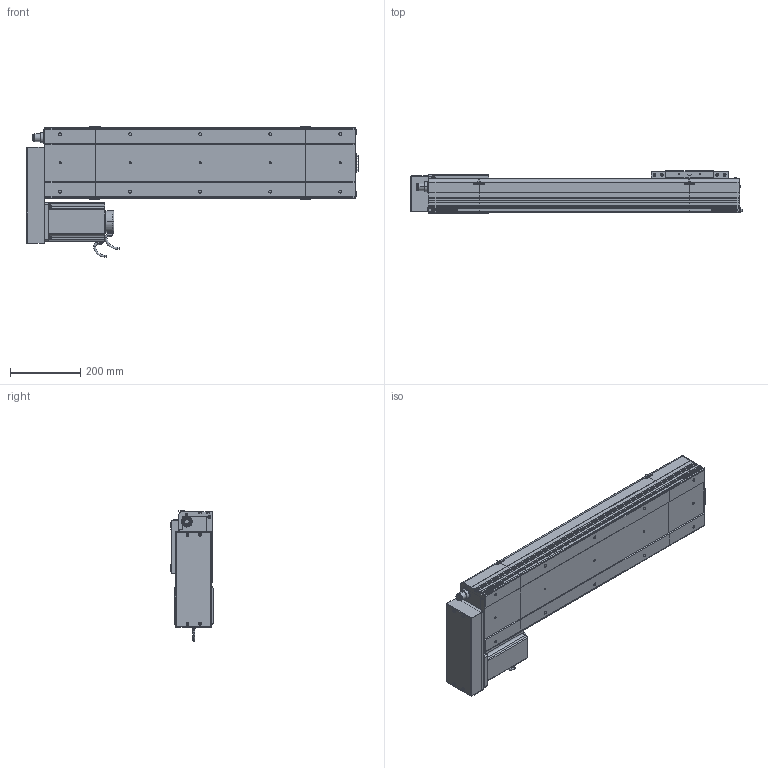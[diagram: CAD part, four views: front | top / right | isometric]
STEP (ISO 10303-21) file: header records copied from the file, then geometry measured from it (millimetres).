
FILE_DESCRIPTION (( 'STEP AP214' ), '1' );
FILE_NAME ('D20 CSH BR S600.STEP', '2010-06-30T08:03:51', ( 'Conseil Régional Haute-Normandie' ), ( 'Conseil Régional Haute-Normandie' ), 'SwSTEP 2.0', 'SolidWorks 2010', '' );
FILE_SCHEMA (( 'AUTOMOTIVE_DESIGN' ));
Length unit declared in the file: millimetre
Products named in the file (31): Cache Moteur BR D20_Default; ecrou_Default; vis M5 L15_Default; vis M5 L47_Default; vis M5 L30_Default; clavette; Conecteur_Default; Conecteur2_Default; codeur 110BLDC170A-630x; Support moteur BR D20_Default; corps 110BLDC170A-630x; Plaque de Bout Head BR D20_Default; Moteur motionking 110BLDC170A-640x; Plaque De Serrage Head BR D20_Default; Corp Head BR D20_Default; avant 110BLDC170A-630x; Couvercle Head BR_Default; Tail D20_Default; D20 CSH BR S600; Plaque de Bout Tail D20_Default; Couvercle_Default; Corp Tail D20_Default; Corp S600_Default; Corp D20 S600_Default; Plaque De Serrage D20_Default; Support Chariot D20_Default; Chariot D20_Default; Couvercle S600_Default; Head D20 BR_Default; Glissiere_Default
Assembly tree (60 placements, depth 4):
  D20 CSH BR S600
    Corp D20 S600_Default
      Corp S600_Default
      Couvercle S600_Default
    Head D20 BR_Default
      Moteur motionking 110BLDC170A-640x
        corps 110BLDC170A-630x
        codeur 110BLDC170A-630x
        Conecteur_Default
        avant 110BLDC170A-630x
        clavette
        Conecteur2_Default
      vis M5 L15_Default  x8
      vis M5 L47_Default  x4
      vis M5 L30_Default  x4
      Couvercle Head BR_Default
      Plaque de Bout Head BR D20_Default
      Plaque De Serrage Head BR D20_Default
      Corp Head BR D20_Default
      Cache Moteur BR D20_Default
      ecrou_Default  x4
      Support moteur BR D20_Default
    Chariot D20_Default
      Support Chariot D20_Default
      vis M5 L15_Default  x8
      Chariot D20_Default
      Glissiere_Default
    Tail D20_Default
      vis M5 L15_Default  x6
      Corp Tail D20_Default
      Plaque De Serrage D20_Default
      Couvercle_Default
      Plaque de Bout Tail D20_Default
Bounding box: 947.7 x 120 x 372 mm (x, y, z)
Volume: 8649994.6 mm3; surface area: 1658600.6 mm2
Topology: 97 solids, 97 shells, 3547 faces, 8915 edges, 5805 vertices
Faces by surface type: plane 2000, bspline 806, cylinder 595, torus 83, cone 63
Entity records: 156281 total; most frequent: CARTESIAN_POINT 81771, ORIENTED_EDGE 14778, DIRECTION 11007, EDGE_CURVE 7389, VERTEX_POINT 4893, LINE 4853, VECTOR 4853, EDGE_LOOP 3144
